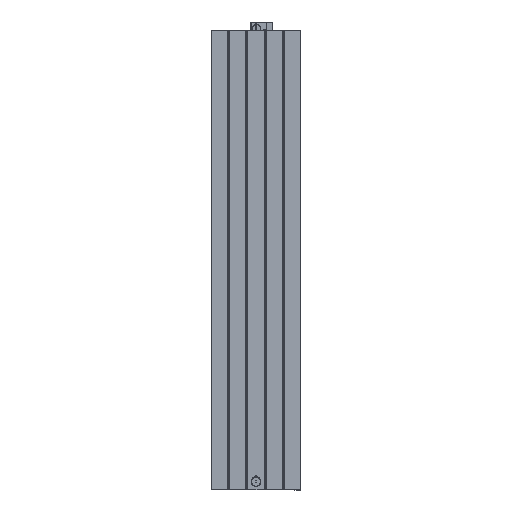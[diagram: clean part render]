
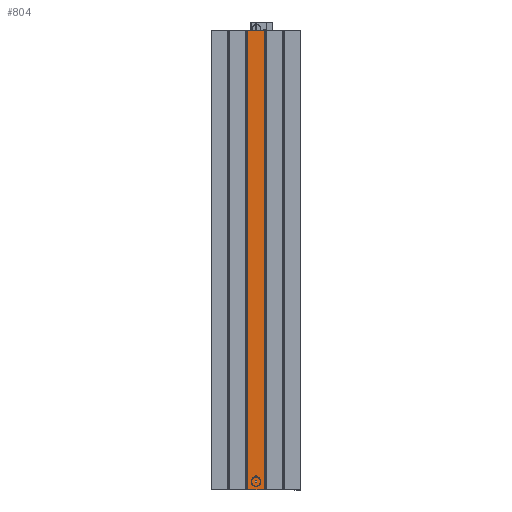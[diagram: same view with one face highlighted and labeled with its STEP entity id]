
A CAD part, front view. The second image highlights one B-rep face of the part: STEP entity #804.
In plain terms, the highlighted planar face has unit normal (0, -1, 0) as drawn and (0, 1, 0) by its records, which use the part's own axes.
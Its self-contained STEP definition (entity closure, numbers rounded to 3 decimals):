
#804 = ADVANCED_FACE( '', ( #1950 ), #1951, .F. );
#1950 = FACE_OUTER_BOUND( '', #3725, .T. );
#1951 = PLANE( '', #3726 );
#3725 = EDGE_LOOP( '', ( #6140, #6141, #6142, #6143 ) );
#3726 = AXIS2_PLACEMENT_3D( '', #6144, #6145, #6146 );
#6140 = ORIENTED_EDGE( '', *, *, #10735, .T. );
#6141 = ORIENTED_EDGE( '', *, *, #10736, .T. );
#6142 = ORIENTED_EDGE( '', *, *, #10737, .T. );
#6143 = ORIENTED_EDGE( '', *, *, #10738, .T. );
#6144 = CARTESIAN_POINT( '', ( 60., 10., 1650. ) );
#6145 = DIRECTION( '', ( 0., -1., 0. ) );
#6146 = DIRECTION( '', ( 0., 0., -1. ) );
#10735 = EDGE_CURVE( '', #12379, #12380, #12381, .F. );
#10736 = EDGE_CURVE( '', #12380, #12382, #12383, .F. );
#10737 = EDGE_CURVE( '', #12382, #12384, #12385, .T. );
#10738 = EDGE_CURVE( '', #12384, #12379, #12386, .T. );
#12379 = VERTEX_POINT( '', #15184 );
#12380 = VERTEX_POINT( '', #15185 );
#12381 = LINE( '', #15186, #15187 );
#12382 = VERTEX_POINT( '', #15188 );
#12383 = LINE( '', #15189, #15190 );
#12384 = VERTEX_POINT( '', #15191 );
#12385 = LINE( '', #15192, #15193 );
#12386 = LINE( '', #15194, #15195 );
#15184 = CARTESIAN_POINT( '', ( 1., 10., 1. ) );
#15185 = CARTESIAN_POINT( '', ( 1., 10., 1649. ) );
#15186 = CARTESIAN_POINT( '', ( 1., 10., 1650. ) );
#15187 = VECTOR( '', #21743, 1000. );
#15188 = CARTESIAN_POINT( '', ( 59., 10., 1649. ) );
#15189 = CARTESIAN_POINT( '', ( 59., 10., 1649. ) );
#15190 = VECTOR( '', #21744, 1000. );
#15191 = CARTESIAN_POINT( '', ( 59., 10., 1. ) );
#15192 = CARTESIAN_POINT( '', ( 59., 10., 1650. ) );
#15193 = VECTOR( '', #21745, 1000. );
#15194 = CARTESIAN_POINT( '', ( 60., 10., 1. ) );
#15195 = VECTOR( '', #21746, 1000. );
#21743 = DIRECTION( '', ( 0., 0., -1. ) );
#21744 = DIRECTION( '', ( -1., 0., 0. ) );
#21745 = DIRECTION( '', ( 0., 0., -1. ) );
#21746 = DIRECTION( '', ( -1., 0., 0. ) );
